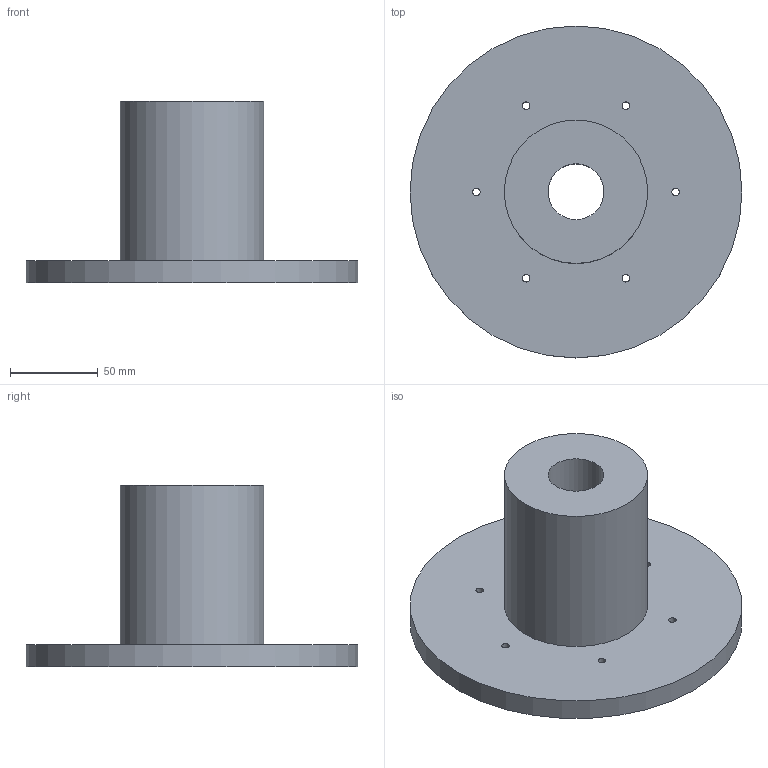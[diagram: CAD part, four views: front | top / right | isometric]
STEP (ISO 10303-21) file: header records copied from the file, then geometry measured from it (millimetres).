
FILE_DESCRIPTION(('Mechanical CAD reference from nasji.com'),'2;1');
FILE_NAME('NASJI.step','',(''),(''),'','NASJI distribution','');
FILE_SCHEMA(('AUTOMOTIVE_DESIGN { 1 0 10303 214 1 1 1 1 }'));
Length unit declared in the file: millimetre
Products named in the file (1): Open CASCADE STEP translator 7.8 227
Bounding box: 188.9 x 188.9 x 103 mm (x, y, z)
Volume: 736163.6 mm3; surface area: 96126 mm2
Topology: 1 solids, 1 shells, 12 faces, 27 edges, 18 vertices
Faces by surface type: cylinder 9, plane 3
Full cylindrical faces by diameter (mm): 4.3 x6, 31.8 x1, 81.6 x1, 188.9 x1
Entity records: 774 total; most frequent: CARTESIAN_POINT 184, DIRECTION 113, ORIENTED_EDGE 54, PCURVE 54, DEFINITIONAL_REPRESENTATION 54, LINE 45, VECTOR 45, AXIS2_PLACEMENT_3D 31
